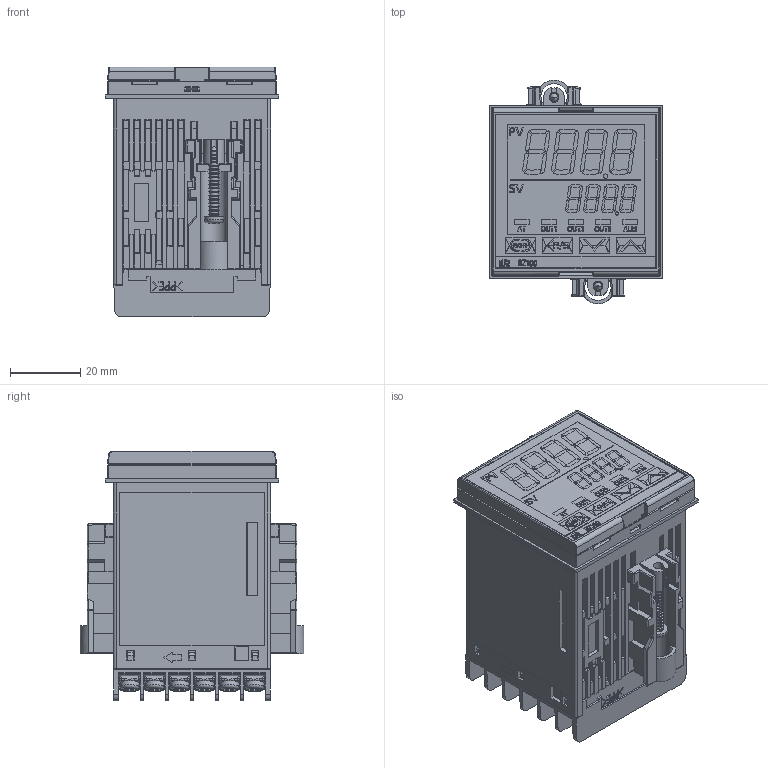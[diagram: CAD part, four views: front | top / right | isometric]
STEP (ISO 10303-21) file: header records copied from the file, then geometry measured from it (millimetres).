
FILE_DESCRIPTION (( 'STEP AP203' ), '1' );
FILE_NAME ('YIRZ100-14(0).STEP', '2019-05-27T08:46:07', ( '' ), ( '' ), 'SwSTEP 2.0', 'SolidWorks 2018', '' );
FILE_SCHEMA (( 'CONFIG_CONTROL_DESIGN' ));
Products named in the file (4): RZ100(基本設計)_WEB_デフォルト; KRB100-39_WEB; KRZ400-520_WEB; YIRZ100-14(0)
Assembly tree (4 placements, depth 2):
  YIRZ100-14(0)
    RZ100(基本設計)_WEB_デフォルト
    KRB100-39_WEB
    KRZ400-520_WEB  x2
Bounding box: 49.2 x 63.65 x 71.05 mm (x, y, z)
Volume: 153316 mm3; surface area: 40823.8 mm2
Topology: 7 solids, 7 shells, 5068 faces, 13604 edges, 8718 vertices
Faces by surface type: plane 3030, bspline 1078, cylinder 622, cone 190, sphere 104, torus 44
Entity records: 170933 total; most frequent: CARTESIAN_POINT 64811, ORIENTED_EDGE 23990, DIRECTION 18280, EDGE_CURVE 11995, LINE 8556, VECTOR 8556, VERTEX_POINT 7769, AXIS2_PLACEMENT_3D 4862
